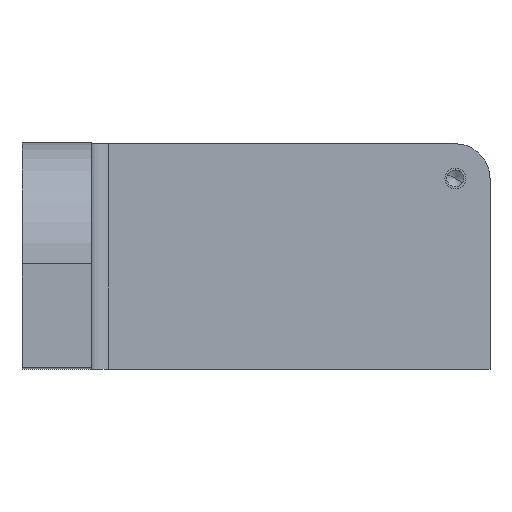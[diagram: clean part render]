
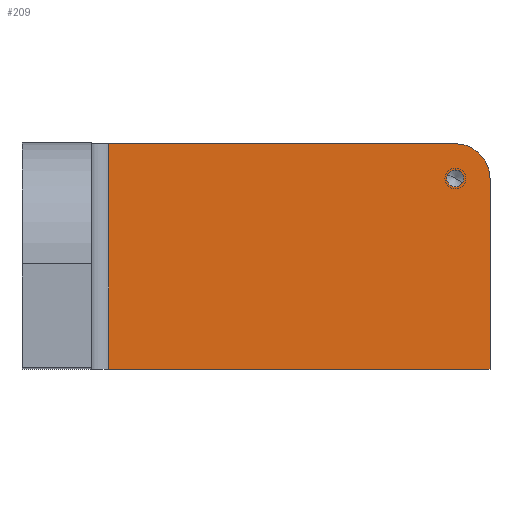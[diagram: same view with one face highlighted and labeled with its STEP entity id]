
A CAD part, top view. The second image highlights one B-rep face of the part: STEP entity #209.
In plain terms, the highlighted planar face has unit normal (0, 0, 1).
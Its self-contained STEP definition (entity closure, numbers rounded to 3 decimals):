
#144=CARTESIAN_POINT('Axis2P3D Location',(0.,0.,20.)) ;
#149=CARTESIAN_POINT('Line Origine',(80.,0.,20.)) ;
#153=CARTESIAN_POINT('Vertex',(25.,0.,20.)) ;
#155=CARTESIAN_POINT('Vertex',(135.,0.,20.)) ;
#158=CARTESIAN_POINT('Line Origine',(135.,27.5,20.)) ;
#162=CARTESIAN_POINT('Vertex',(135.,55.,20.)) ;
#165=CARTESIAN_POINT('Axis2P3D Location',(125.,55.,20.)) ;
#169=CARTESIAN_POINT('Vertex',(125.,65.,20.)) ;
#172=CARTESIAN_POINT('Line Origine',(75.,65.,20.)) ;
#176=CARTESIAN_POINT('Vertex',(25.,65.,20.)) ;
#179=CARTESIAN_POINT('Line Origine',(25.,32.5,20.)) ;
#191=CARTESIAN_POINT('Axis2P3D Location',(125.,55.,20.)) ;
#195=CARTESIAN_POINT('Vertex',(122.842,56.179,20.)) ;
#197=CARTESIAN_POINT('Vertex',(127.158,53.821,20.)) ;
#200=CARTESIAN_POINT('Axis2P3D Location',(125.,55.,20.)) ;
#145=DIRECTION('Axis2P3D Direction',(0.,0.,1.)) ;
#146=DIRECTION('Axis2P3D XDirection',(1.,0.,0.)) ;
#150=DIRECTION('Vector Direction',(1.,0.,0.)) ;
#159=DIRECTION('Vector Direction',(0.,1.,0.)) ;
#166=DIRECTION('Axis2P3D Direction',(0.,0.,1.)) ;
#173=DIRECTION('Vector Direction',(-1.,0.,0.)) ;
#180=DIRECTION('Vector Direction',(0.,-1.,0.)) ;
#192=DIRECTION('Axis2P3D Direction',(0.,0.,1.)) ;
#201=DIRECTION('Axis2P3D Direction',(0.,0.,1.)) ;
#147=AXIS2_PLACEMENT_3D('Plane Axis2P3D',#144,#145,#146) ;
#167=AXIS2_PLACEMENT_3D('Circle Axis2P3D',#165,#166,$) ;
#193=AXIS2_PLACEMENT_3D('Circle Axis2P3D',#191,#192,$) ;
#202=AXIS2_PLACEMENT_3D('Circle Axis2P3D',#200,#201,$) ;
#185=ORIENTED_EDGE('',*,*,#157,.T.) ;
#186=ORIENTED_EDGE('',*,*,#164,.T.) ;
#187=ORIENTED_EDGE('',*,*,#171,.T.) ;
#188=ORIENTED_EDGE('',*,*,#178,.T.) ;
#189=ORIENTED_EDGE('',*,*,#183,.F.) ;
#206=ORIENTED_EDGE('',*,*,#199,.F.) ;
#207=ORIENTED_EDGE('',*,*,#204,.F.) ;
#208=FACE_BOUND('',#205,.T.) ;
#151=VECTOR('Line Direction',#150,1.) ;
#160=VECTOR('Line Direction',#159,1.) ;
#174=VECTOR('Line Direction',#173,1.) ;
#181=VECTOR('Line Direction',#180,1.) ;
#209=ADVANCED_FACE('PartBody',(#190,#208),#148,.T.) ;
#168=CIRCLE('generated circle',#167,10.) ;
#194=CIRCLE('generated circle',#193,2.459) ;
#203=CIRCLE('generated circle',#202,2.459) ;
#157=EDGE_CURVE('',#154,#156,#152,.T.) ;
#164=EDGE_CURVE('',#156,#163,#161,.T.) ;
#171=EDGE_CURVE('',#163,#170,#168,.T.) ;
#178=EDGE_CURVE('',#170,#177,#175,.T.) ;
#183=EDGE_CURVE('',#154,#177,#182,.F.) ;
#199=EDGE_CURVE('',#196,#198,#194,.T.) ;
#204=EDGE_CURVE('',#198,#196,#203,.T.) ;
#184=EDGE_LOOP('',(#185,#186,#187,#188,#189)) ;
#205=EDGE_LOOP('',(#206,#207)) ;
#190=FACE_OUTER_BOUND('',#184,.T.) ;
#152=LINE('Line',#149,#151) ;
#161=LINE('Line',#158,#160) ;
#175=LINE('Line',#172,#174) ;
#182=LINE('Line',#179,#181) ;
#148=PLANE('',#147) ;
#154=VERTEX_POINT('',#153) ;
#156=VERTEX_POINT('',#155) ;
#163=VERTEX_POINT('',#162) ;
#170=VERTEX_POINT('',#169) ;
#177=VERTEX_POINT('',#176) ;
#196=VERTEX_POINT('',#195) ;
#198=VERTEX_POINT('',#197) ;
